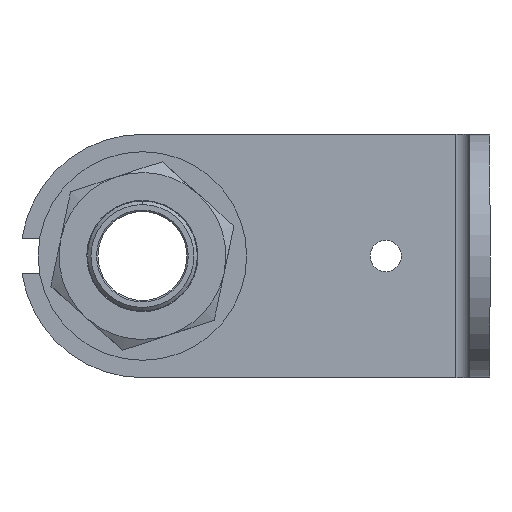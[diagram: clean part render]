
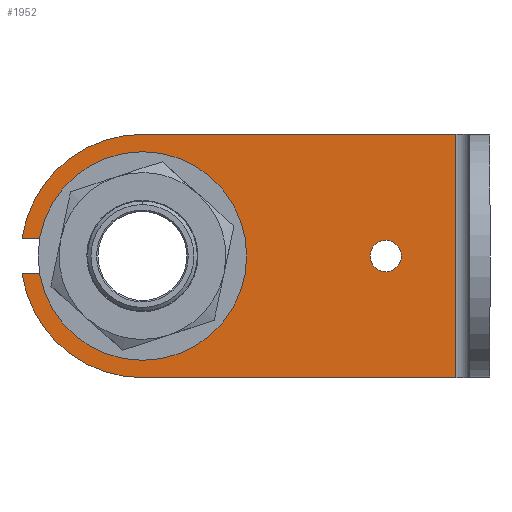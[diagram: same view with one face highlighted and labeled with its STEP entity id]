
A CAD part, front view. The second image highlights one B-rep face of the part: STEP entity #1952.
In plain terms, the highlighted planar face has unit normal (0, -1, 0).
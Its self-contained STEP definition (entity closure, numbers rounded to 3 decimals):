
#204 = CARTESIAN_POINT ( 'NONE',  ( -8.124, 12.1, 2.5 ) ) ;
#205 = CARTESIAN_POINT ( 'NONE',  ( 0., 12.1, -17.5 ) ) ;
#211 = CARTESIAN_POINT ( 'NONE',  ( -17.321, 12.1, -2.5 ) ) ;
#212 = CARTESIAN_POINT ( 'NONE',  ( 45.1, 12.1, -17.5 ) ) ;
#223 = CARTESIAN_POINT ( 'NONE',  ( -8.124, 12.1, -2.5 ) ) ;
#293 = CARTESIAN_POINT ( 'NONE',  ( 45.1, 12.1, 17.5 ) ) ;
#372 = CARTESIAN_POINT ( 'NONE',  ( -17.321, 12.1, 2.5 ) ) ;
#380 = CARTESIAN_POINT ( 'NONE',  ( 0., 12.1, 17.5 ) ) ;
#404 = CARTESIAN_POINT ( 'NONE',  ( 37.25, 12.1, 0. ) ) ;
#410 = CARTESIAN_POINT ( 'NONE',  ( 32.75, 12.1, 0. ) ) ;
#1076 = EDGE_CURVE ( 'NONE', #2898, #2772, #2774, .T. ) ;
#1079 = EDGE_CURVE ( 'NONE', #2736, #2898, #2562, .T. ) ;
#1095 = EDGE_CURVE ( 'NONE', #2417, #2414, #2690, .T. ) ;
#1096 = EDGE_CURVE ( 'NONE', #2395, #2398, #2889, .T. ) ;
#1098 = EDGE_CURVE ( 'NONE', #2530, #2736, #2619, .T. ) ;
#1105 = EDGE_CURVE ( 'NONE', #2907, #2417, #2621, .T. ) ;
#1113 = EDGE_CURVE ( 'NONE', #2414, #2530, #2613, .T. ) ;
#1138 = EDGE_CURVE ( 'NONE', #2781, #2907, #2732, .T. ) ;
#1147 = AXIS2_PLACEMENT_3D ( 'NONE', #3632, #3633, #3634 ) ;
#1167 = AXIS2_PLACEMENT_3D ( 'NONE', #3690, #3688, #3694 ) ;
#1168 = AXIS2_PLACEMENT_3D ( 'NONE', #3685, #3686, #3684 ) ;
#1190 = AXIS2_PLACEMENT_3D ( 'NONE', #3767, #3493, #3492 ) ;
#1202 = AXIS2_PLACEMENT_3D ( 'NONE', #3412, #3414, #3415 ) ;
#1332 = AXIS2_PLACEMENT_3D ( 'NONE', #3780, #3781, #3782 ) ;
#1425 = EDGE_CURVE ( 'NONE', #2398, #2395, #2709, .T. ) ;
#1554 = EDGE_CURVE ( 'NONE', #2772, #2781, #2749, .T. ) ;
#1796 = ORIENTED_EDGE ( 'NONE', *, *, #1425, .T. ) ;
#1801 = ORIENTED_EDGE ( 'NONE', *, *, #1554, .F. ) ;
#1918 = ORIENTED_EDGE ( 'NONE', *, *, #1076, .F. ) ;
#1919 = ORIENTED_EDGE ( 'NONE', *, *, #1079, .F. ) ;
#1924 = ORIENTED_EDGE ( 'NONE', *, *, #1113, .F. ) ;
#1925 = ORIENTED_EDGE ( 'NONE', *, *, #1095, .F. ) ;
#1926 = ORIENTED_EDGE ( 'NONE', *, *, #1105, .F. ) ;
#1932 = ORIENTED_EDGE ( 'NONE', *, *, #1138, .F. ) ;
#1933 = ORIENTED_EDGE ( 'NONE', *, *, #1098, .F. ) ;
#1934 = ORIENTED_EDGE ( 'NONE', *, *, #1096, .T. ) ;
#1952 = ADVANCED_FACE ( 'NONE', ( #2167, #2192 ), #3472, .F. ) ;
#2167 = FACE_BOUND ( 'NONE', #2568, .T. ) ;
#2192 = FACE_OUTER_BOUND ( 'NONE', #2869, .T. ) ;
#2395 = VERTEX_POINT ( 'NONE', #404 ) ;
#2398 = VERTEX_POINT ( 'NONE', #410 ) ;
#2414 = VERTEX_POINT ( 'NONE', #380 ) ;
#2417 = VERTEX_POINT ( 'NONE', #372 ) ;
#2530 = VERTEX_POINT ( 'NONE', #293 ) ;
#2562 = LINE ( 'NONE', #3637, #2878 ) ;
#2568 = EDGE_LOOP ( 'NONE', ( #1796, #1934 ) ) ;
#2613 = LINE ( 'NONE', #3731, #2740 ) ;
#2615 = VECTOR ( 'NONE', #3687, 1000. ) ;
#2619 = LINE ( 'NONE', #3679, #2615 ) ;
#2621 = LINE ( 'NONE', #3711, #2723 ) ;
#2690 = CIRCLE ( 'NONE', #1168, 17.5 ) ;
#2709 = CIRCLE ( 'NONE', #1202, 2.25 ) ;
#2723 = VECTOR ( 'NONE', #3719, 1000. ) ;
#2732 = CIRCLE ( 'NONE', #1190, 8.5 ) ;
#2736 = VERTEX_POINT ( 'NONE', #212 ) ;
#2740 = VECTOR ( 'NONE', #3739, 1000. ) ;
#2749 = LINE ( 'NONE', #3039, #2761 ) ;
#2761 = VECTOR ( 'NONE', #3038, 1000. ) ;
#2772 = VERTEX_POINT ( 'NONE', #211 ) ;
#2774 = CIRCLE ( 'NONE', #1147, 17.5 ) ;
#2781 = VERTEX_POINT ( 'NONE', #223 ) ;
#2869 = EDGE_LOOP ( 'NONE', ( #1933, #1924, #1925, #1926, #1932, #1801, #1918, #1919 ) ) ;
#2878 = VECTOR ( 'NONE', #3639, 1000. ) ;
#2889 = CIRCLE ( 'NONE', #1167, 2.25 ) ;
#2898 = VERTEX_POINT ( 'NONE', #205 ) ;
#2907 = VERTEX_POINT ( 'NONE', #204 ) ;
#3038 = DIRECTION ( 'NONE',  ( 1., 0., 0. ) ) ;
#3039 = CARTESIAN_POINT ( 'NONE',  ( -8.124, 12.1, -2.5 ) ) ;
#3412 = CARTESIAN_POINT ( 'NONE',  ( 35., 12.1, 0. ) ) ;
#3414 = DIRECTION ( 'NONE',  ( 0., 1., 0. ) ) ;
#3415 = DIRECTION ( 'NONE',  ( 1., 0., 0. ) ) ;
#3472 = PLANE ( 'NONE',  #1332 ) ;
#3492 = DIRECTION ( 'NONE',  ( 1., 0., 0. ) ) ;
#3493 = DIRECTION ( 'NONE',  ( 0., -1., 0. ) ) ;
#3632 = CARTESIAN_POINT ( 'NONE',  ( 0., 12.1, 0. ) ) ;
#3633 = DIRECTION ( 'NONE',  ( 0., 1., 0. ) ) ;
#3634 = DIRECTION ( 'NONE',  ( 1., 0., 0. ) ) ;
#3637 = CARTESIAN_POINT ( 'NONE',  ( 0., 12.1, -17.5 ) ) ;
#3639 = DIRECTION ( 'NONE',  ( -1., 0., 0. ) ) ;
#3679 = CARTESIAN_POINT ( 'NONE',  ( 45.1, 12.1, 17.5 ) ) ;
#3684 = DIRECTION ( 'NONE',  ( 1., 0., 0. ) ) ;
#3685 = CARTESIAN_POINT ( 'NONE',  ( 0., 12.1, 0. ) ) ;
#3686 = DIRECTION ( 'NONE',  ( 0., 1., 0. ) ) ;
#3687 = DIRECTION ( 'NONE',  ( 0., 0., -1. ) ) ;
#3688 = DIRECTION ( 'NONE',  ( 0., 1., 0. ) ) ;
#3690 = CARTESIAN_POINT ( 'NONE',  ( 35., 12.1, 0. ) ) ;
#3694 = DIRECTION ( 'NONE',  ( 1., 0., 0. ) ) ;
#3711 = CARTESIAN_POINT ( 'NONE',  ( -8.124, 12.1, 2.5 ) ) ;
#3719 = DIRECTION ( 'NONE',  ( -1., 0., 0. ) ) ;
#3731 = CARTESIAN_POINT ( 'NONE',  ( 47.1, 12.1, 17.5 ) ) ;
#3739 = DIRECTION ( 'NONE',  ( 1., 0., 0. ) ) ;
#3767 = CARTESIAN_POINT ( 'NONE',  ( 0., 12.1, 0. ) ) ;
#3780 = CARTESIAN_POINT ( 'NONE',  ( 0., 12.1, 0. ) ) ;
#3781 = DIRECTION ( 'NONE',  ( 0., 1., 0. ) ) ;
#3782 = DIRECTION ( 'NONE',  ( 1., 0., 0. ) ) ;
